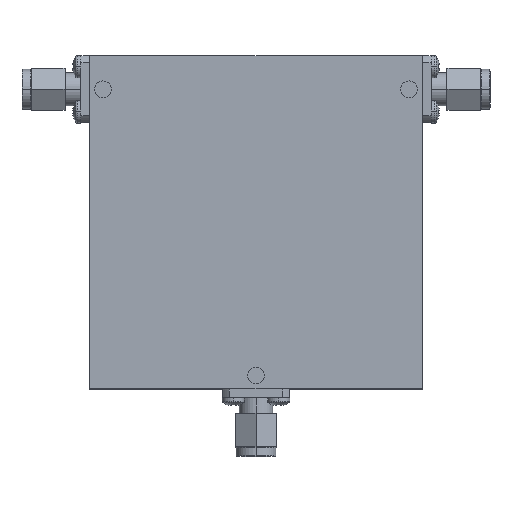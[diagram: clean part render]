
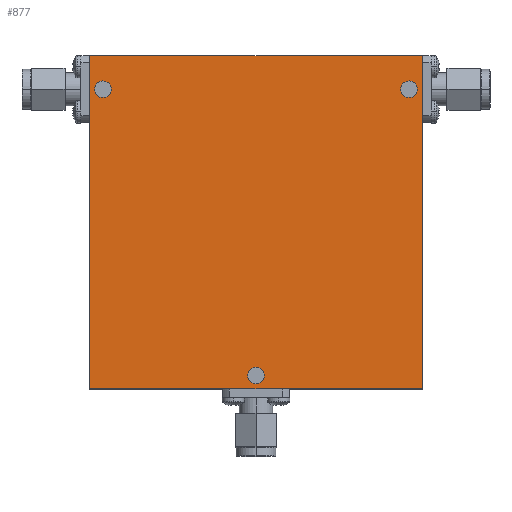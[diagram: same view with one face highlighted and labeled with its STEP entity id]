
A CAD part, top view. The second image highlights one B-rep face of the part: STEP entity #877.
In plain terms, the highlighted planar face has unit normal (0, 0, 1).
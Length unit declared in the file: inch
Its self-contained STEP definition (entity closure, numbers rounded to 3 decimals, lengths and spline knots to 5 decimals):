
#29 = EDGE_CURVE ( 'NONE', #2110, #2378, #1565, .T. ) ;
#127 = DIRECTION ( 'NONE',  ( 1., 0., 0. ) ) ;
#142 = EDGE_CURVE ( 'NONE', #2349, #2759, #3226, .T. ) ;
#155 = EDGE_CURVE ( 'NONE', #2378, #1629, #3189, .T. ) ;
#191 = DIRECTION ( 'NONE',  ( 0., 0., 1. ) ) ;
#241 = VERTEX_POINT ( 'NONE', #366 ) ;
#363 = DIRECTION ( 'NONE',  ( 0., 0., 1. ) ) ;
#366 = CARTESIAN_POINT ( 'NONE',  ( -1.0875, 1., 0.275 ) ) ;
#400 = VECTOR ( 'NONE', #3169, 39.37008 ) ;
#404 = DIRECTION ( 'NONE',  ( 0., 0., 1. ) ) ;
#408 = AXIS2_PLACEMENT_3D ( 'NONE', #758, #516, #2863 ) ;
#425 = DIRECTION ( 'NONE',  ( 1., 0., 0. ) ) ;
#449 = CARTESIAN_POINT ( 'NONE',  ( -0.0625, -1.15, 0.275 ) ) ;
#494 = VERTEX_POINT ( 'NONE', #1916 ) ;
#499 = ORIENTED_EDGE ( 'NONE', *, *, #2849, .F. ) ;
#516 = DIRECTION ( 'NONE',  ( 0., 0., 1. ) ) ;
#517 = EDGE_CURVE ( 'NONE', #3134, #494, #823, .T. ) ;
#528 = EDGE_CURVE ( 'NONE', #241, #1537, #1225, .T. ) ;
#555 = VECTOR ( 'NONE', #2254, 39.37008 ) ;
#608 = AXIS2_PLACEMENT_3D ( 'NONE', #3194, #363, #127 ) ;
#630 = CARTESIAN_POINT ( 'NONE',  ( 0.0625, -1.15, 0.275 ) ) ;
#703 = CARTESIAN_POINT ( 'NONE',  ( 1.2125, 1., 0.275 ) ) ;
#741 = CIRCLE ( 'NONE', #1726, 0.0625 ) ;
#758 = CARTESIAN_POINT ( 'NONE',  ( -1.15, 1., 0.275 ) ) ;
#823 = CIRCLE ( 'NONE', #3127, 0.0625 ) ;
#877 = ADVANCED_FACE ( 'NONE', ( #3073, #2373, #2824, #1442 ), #1375, .T. ) ;
#913 = EDGE_CURVE ( 'NONE', #1629, #1169, #3071, .T. ) ;
#931 = DIRECTION ( 'NONE',  ( 1., 0., 0. ) ) ;
#933 = ORIENTED_EDGE ( 'NONE', *, *, #2302, .T. ) ;
#959 = ORIENTED_EDGE ( 'NONE', *, *, #142, .F. ) ;
#961 = DIRECTION ( 'NONE',  ( 0., 0., 1. ) ) ;
#1084 = CARTESIAN_POINT ( 'NONE',  ( 1.25, 1.25, 0.275 ) ) ;
#1102 = CARTESIAN_POINT ( 'NONE',  ( -1.2125, 1., 0.275 ) ) ;
#1129 = CARTESIAN_POINT ( 'NONE',  ( -1.25, 1.25, 0.275 ) ) ;
#1169 = VERTEX_POINT ( 'NONE', #3060 ) ;
#1204 = CARTESIAN_POINT ( 'NONE',  ( 0., -1.15, 0.275 ) ) ;
#1221 = CARTESIAN_POINT ( 'NONE',  ( -1.25, 1.25, 0.275 ) ) ;
#1225 = CIRCLE ( 'NONE', #2358, 0.0625 ) ;
#1228 = VECTOR ( 'NONE', #1740, 39.37008 ) ;
#1333 = ORIENTED_EDGE ( 'NONE', *, *, #2806, .F. ) ;
#1374 = DIRECTION ( 'NONE',  ( 1., 0., 0. ) ) ;
#1375 = PLANE ( 'NONE',  #608 ) ;
#1442 = FACE_OUTER_BOUND ( 'NONE', #1923, .T. ) ;
#1517 = CIRCLE ( 'NONE', #408, 0.0625 ) ;
#1537 = VERTEX_POINT ( 'NONE', #1102 ) ;
#1565 = LINE ( 'NONE', #1129, #1228 ) ;
#1629 = VERTEX_POINT ( 'NONE', #3000 ) ;
#1641 = EDGE_LOOP ( 'NONE', ( #2966, #499 ) ) ;
#1726 = AXIS2_PLACEMENT_3D ( 'NONE', #2450, #404, #425 ) ;
#1740 = DIRECTION ( 'NONE',  ( -1., 0., 0. ) ) ;
#1887 = CARTESIAN_POINT ( 'NONE',  ( 0., -1.15, 0.275 ) ) ;
#1900 = ORIENTED_EDGE ( 'NONE', *, *, #528, .F. ) ;
#1916 = CARTESIAN_POINT ( 'NONE',  ( 1.0875, 1., 0.275 ) ) ;
#1923 = EDGE_LOOP ( 'NONE', ( #933, #2506, #2297, #3311 ) ) ;
#2003 = DIRECTION ( 'NONE',  ( 1., 0., 0. ) ) ;
#2110 = VERTEX_POINT ( 'NONE', #1084 ) ;
#2129 = AXIS2_PLACEMENT_3D ( 'NONE', #1887, #2930, #1374 ) ;
#2254 = DIRECTION ( 'NONE',  ( 0., -1., 0. ) ) ;
#2297 = ORIENTED_EDGE ( 'NONE', *, *, #155, .T. ) ;
#2302 = EDGE_CURVE ( 'NONE', #1169, #2110, #2857, .T. ) ;
#2349 = VERTEX_POINT ( 'NONE', #449 ) ;
#2358 = AXIS2_PLACEMENT_3D ( 'NONE', #2501, #191, #3296 ) ;
#2373 = FACE_BOUND ( 'NONE', #2605, .T. ) ;
#2378 = VERTEX_POINT ( 'NONE', #1221 ) ;
#2425 = AXIS2_PLACEMENT_3D ( 'NONE', #1204, #3043, #2003 ) ;
#2450 = CARTESIAN_POINT ( 'NONE',  ( 1.15, 1., 0.275 ) ) ;
#2453 = DIRECTION ( 'NONE',  ( 0., 1., 0. ) ) ;
#2501 = CARTESIAN_POINT ( 'NONE',  ( -1.15, 1., 0.275 ) ) ;
#2503 = EDGE_CURVE ( 'NONE', #1537, #241, #1517, .T. ) ;
#2506 = ORIENTED_EDGE ( 'NONE', *, *, #29, .T. ) ;
#2605 = EDGE_LOOP ( 'NONE', ( #1333, #959 ) ) ;
#2649 = CARTESIAN_POINT ( 'NONE',  ( -1.25, -1.25, 0.275 ) ) ;
#2698 = CARTESIAN_POINT ( 'NONE',  ( 1.25, 1.25, 0.275 ) ) ;
#2747 = CARTESIAN_POINT ( 'NONE',  ( 1.15, 1., 0.275 ) ) ;
#2759 = VERTEX_POINT ( 'NONE', #630 ) ;
#2763 = CARTESIAN_POINT ( 'NONE',  ( -1.25, 1.25, 0.275 ) ) ;
#2806 = EDGE_CURVE ( 'NONE', #2759, #2349, #3254, .T. ) ;
#2824 = FACE_BOUND ( 'NONE', #3162, .T. ) ;
#2849 = EDGE_CURVE ( 'NONE', #494, #3134, #741, .T. ) ;
#2853 = ORIENTED_EDGE ( 'NONE', *, *, #2503, .F. ) ;
#2857 = LINE ( 'NONE', #2698, #3222 ) ;
#2863 = DIRECTION ( 'NONE',  ( 1., 0., 0. ) ) ;
#2930 = DIRECTION ( 'NONE',  ( 0., 0., 1. ) ) ;
#2966 = ORIENTED_EDGE ( 'NONE', *, *, #517, .F. ) ;
#3000 = CARTESIAN_POINT ( 'NONE',  ( -1.25, -1.25, 0.275 ) ) ;
#3043 = DIRECTION ( 'NONE',  ( 0., 0., 1. ) ) ;
#3060 = CARTESIAN_POINT ( 'NONE',  ( 1.25, -1.25, 0.275 ) ) ;
#3071 = LINE ( 'NONE', #2649, #400 ) ;
#3073 = FACE_BOUND ( 'NONE', #1641, .T. ) ;
#3127 = AXIS2_PLACEMENT_3D ( 'NONE', #2747, #961, #931 ) ;
#3134 = VERTEX_POINT ( 'NONE', #703 ) ;
#3162 = EDGE_LOOP ( 'NONE', ( #1900, #2853 ) ) ;
#3169 = DIRECTION ( 'NONE',  ( 1., 0., 0. ) ) ;
#3189 = LINE ( 'NONE', #2763, #555 ) ;
#3194 = CARTESIAN_POINT ( 'NONE',  ( 0., 0., 0.275 ) ) ;
#3222 = VECTOR ( 'NONE', #2453, 39.37008 ) ;
#3226 = CIRCLE ( 'NONE', #2425, 0.0625 ) ;
#3254 = CIRCLE ( 'NONE', #2129, 0.0625 ) ;
#3296 = DIRECTION ( 'NONE',  ( 1., 0., 0. ) ) ;
#3311 = ORIENTED_EDGE ( 'NONE', *, *, #913, .T. ) ;
